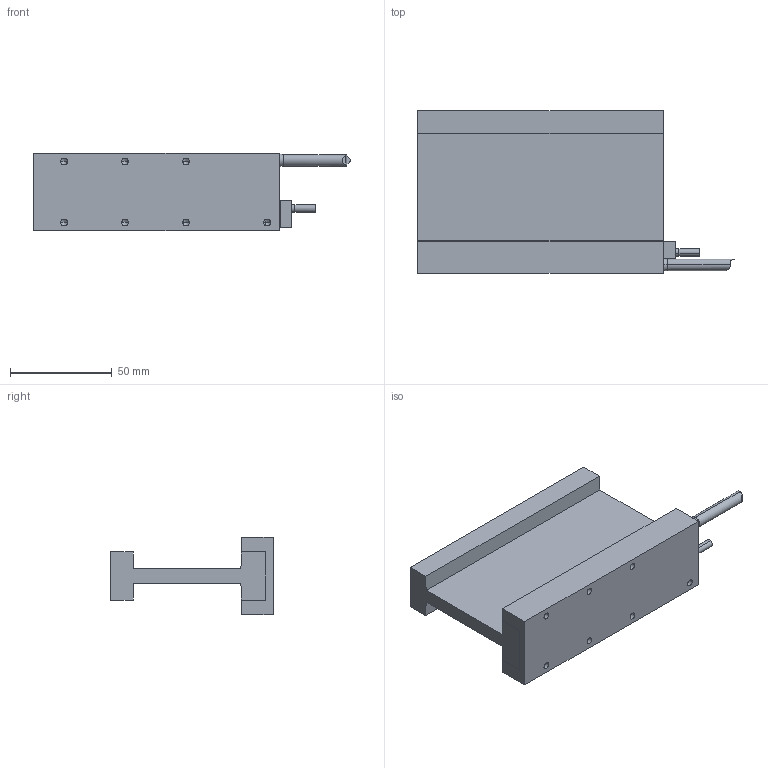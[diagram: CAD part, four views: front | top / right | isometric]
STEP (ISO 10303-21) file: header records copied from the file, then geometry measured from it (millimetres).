
FILE_DESCRIPTION (( 'STEP AP214' ), '1' );
FILE_NAME ('DX50F-C2.step', '2022-05-06T04:03:59', ( '' ), ( '' ), 'SwSTEP 2.0', 'SolidWorks 2020', '' );
FILE_SCHEMA (( 'AUTOMOTIVE_DESIGN' ));
Length unit declared in the file: millimetre
Products named in the file (1): DX50F-C2
Bounding box: 156 x 80 x 38.2 mm (x, y, z)
Volume: 150424.8 mm3; surface area: 49895.7 mm2
Topology: 7 solids, 7 shells, 174 faces, 404 edges, 241 vertices
Faces by surface type: plane 86, cylinder 50, cone 30, torus 8
Entity records: 6817 total; most frequent: CARTESIAN_POINT 893, DIRECTION 848, ORIENTED_EDGE 764, EDGE_CURVE 382, AXIS2_PLACEMENT_3D 304, VERTEX_POINT 241, VECTOR 240, LINE 240
